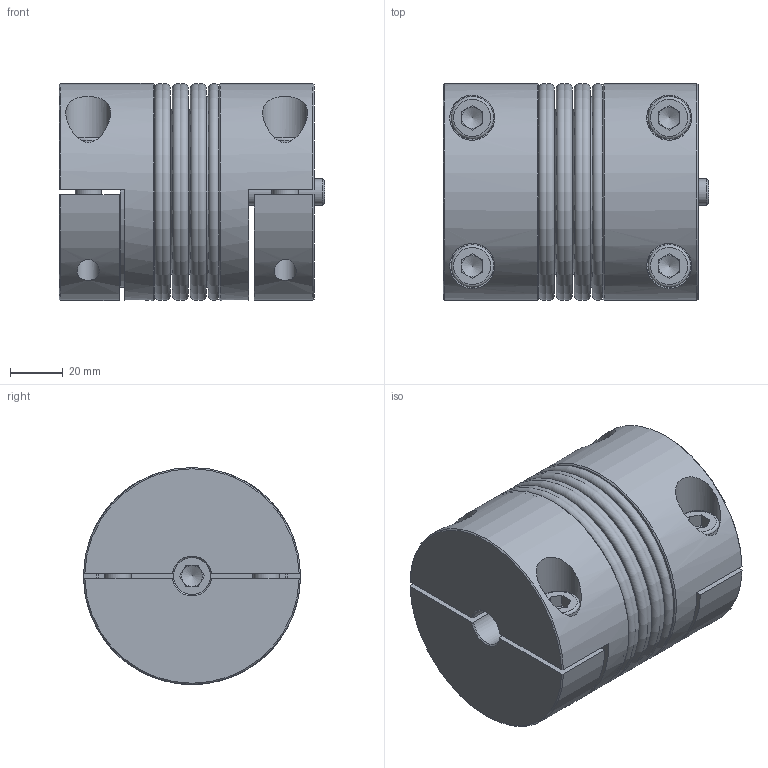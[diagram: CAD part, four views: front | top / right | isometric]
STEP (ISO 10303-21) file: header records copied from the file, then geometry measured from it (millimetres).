
FILE_DESCRIPTION( ( 'Unknown' ), '1' );
FILE_NAME( 'C:/Dokumente und Einstellungen/SKarpstein/Desktop/hp kbk/KB4H-150-95.stp', 'Unknown', ( 'Unknown' ), ( 'Unknown' ), 'XStep 1.0', 'Unknown', ' ' );
FILE_SCHEMA( ( 'automotive_design' ) );
Length unit declared in the file: millimetre
Products named in the file (5): Assem1; KN4H-150; BK80-150_Standard_3; Socket Head Cap Screw_DIN_DIN 912 M10 x 30 --- 30N_8
Bounding box: 100.4 x 82 x 82 mm (x, y, z)
Volume: 536127.3 mm3; surface area: 198742.4 mm2
Topology: 13 solids, 13 shells, 255 faces, 525 edges, 336 vertices
Faces by surface type: plane 144, cylinder 48, torus 38, cone 25
Full cylindrical faces by diameter (mm): 8.376 x6, 10 x5, 10.5 x6, 14 x3, 16 x5, 17 x6, 70.7 x4, 71.9 x4, 82 x3
Entity records: 2564 total; most frequent: CARTESIAN_POINT 668, DIRECTION 370, ORIENTED_EDGE 248, AXIS2_PLACEMENT_3D 165, EDGE_LOOP 146, EDGE_CURVE 124, FACE_OUTER_BOUND 113, VERTEX_POINT 101
